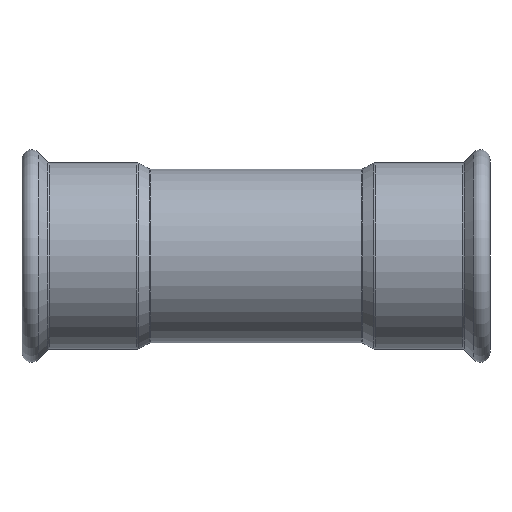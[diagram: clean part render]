
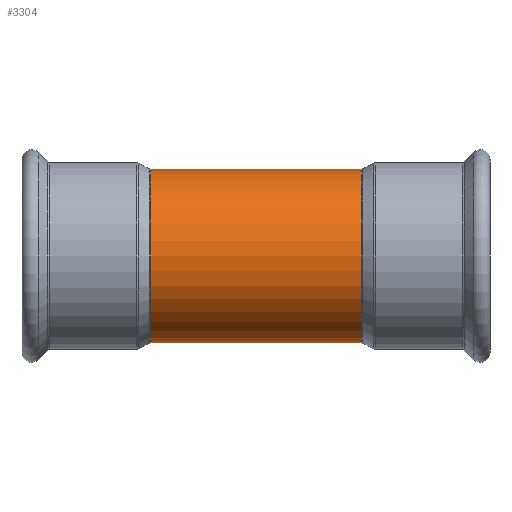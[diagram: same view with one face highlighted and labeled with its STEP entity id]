
A CAD part, front view. The second image highlights one B-rep face of the part: STEP entity #3304.
In plain terms, the highlighted cylindrical face has radius 26.7 mm (diameter 53.4 mm), a partial arc.
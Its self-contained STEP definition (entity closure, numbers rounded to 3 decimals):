
#13 = CIRCLE ( 'NONE', #1127, 26.7 ) ;
#28 = VECTOR ( 'NONE', #2122, 1000. ) ;
#313 = EDGE_CURVE ( 'NONE', #793, #955, #787, .T. ) ;
#322 = CYLINDRICAL_SURFACE ( 'NONE', #1402, 26.7 ) ;
#330 = VERTEX_POINT ( 'NONE', #2480 ) ;
#388 = CARTESIAN_POINT ( 'NONE',  ( 0., 0., 0. ) ) ;
#482 = CARTESIAN_POINT ( 'NONE',  ( -32.377, 0., 0. ) ) ;
#538 = DIRECTION ( 'NONE',  ( -1., 0., 0. ) ) ;
#636 = ORIENTED_EDGE ( 'NONE', *, *, #4261, .T. ) ;
#740 = ORIENTED_EDGE ( 'NONE', *, *, #313, .T. ) ;
#787 = LINE ( 'NONE', #3527, #28 ) ;
#790 = DIRECTION ( 'NONE',  ( 0., 0., 1. ) ) ;
#793 = VERTEX_POINT ( 'NONE', #1176 ) ;
#888 = CARTESIAN_POINT ( 'NONE',  ( 32.377, 0., 0. ) ) ;
#955 = VERTEX_POINT ( 'NONE', #3985 ) ;
#959 = EDGE_LOOP ( 'NONE', ( #3563, #1277, #740, #636 ) ) ;
#1105 = DIRECTION ( 'NONE',  ( 0., 0., 1. ) ) ;
#1127 = AXIS2_PLACEMENT_3D ( 'NONE', #888, #538, #1858 ) ;
#1176 = CARTESIAN_POINT ( 'NONE',  ( 32.377, 0., 26.7 ) ) ;
#1277 = ORIENTED_EDGE ( 'NONE', *, *, #2951, .T. ) ;
#1340 = AXIS2_PLACEMENT_3D ( 'NONE', #482, #1822, #790 ) ;
#1342 = VECTOR ( 'NONE', #1990, 1000. ) ;
#1402 = AXIS2_PLACEMENT_3D ( 'NONE', #388, #3039, #1105 ) ;
#1822 = DIRECTION ( 'NONE',  ( 1., 0., 0. ) ) ;
#1858 = DIRECTION ( 'NONE',  ( 0., 0., 1. ) ) ;
#1990 = DIRECTION ( 'NONE',  ( -1., 0., 0. ) ) ;
#2122 = DIRECTION ( 'NONE',  ( -1., 0., 0. ) ) ;
#2480 = CARTESIAN_POINT ( 'NONE',  ( 32.377, 0., -26.7 ) ) ;
#2902 = FACE_OUTER_BOUND ( 'NONE', #959, .T. ) ;
#2951 = EDGE_CURVE ( 'NONE', #330, #793, #13, .T. ) ;
#2956 = LINE ( 'NONE', #4292, #1342 ) ;
#3030 = VERTEX_POINT ( 'NONE', #4315 ) ;
#3039 = DIRECTION ( 'NONE',  ( -1., 0., 0. ) ) ;
#3100 = EDGE_CURVE ( 'NONE', #330, #3030, #2956, .T. ) ;
#3304 = ADVANCED_FACE ( 'NONE', ( #2902 ), #322, .T. ) ;
#3527 = CARTESIAN_POINT ( 'NONE',  ( 0., 0., 26.7 ) ) ;
#3563 = ORIENTED_EDGE ( 'NONE', *, *, #3100, .F. ) ;
#3719 = CIRCLE ( 'NONE', #1340, 26.7 ) ;
#3985 = CARTESIAN_POINT ( 'NONE',  ( -32.377, 0., 26.7 ) ) ;
#4261 = EDGE_CURVE ( 'NONE', #955, #3030, #3719, .T. ) ;
#4292 = CARTESIAN_POINT ( 'NONE',  ( 0., 0., -26.7 ) ) ;
#4315 = CARTESIAN_POINT ( 'NONE',  ( -32.377, 0., -26.7 ) ) ;
